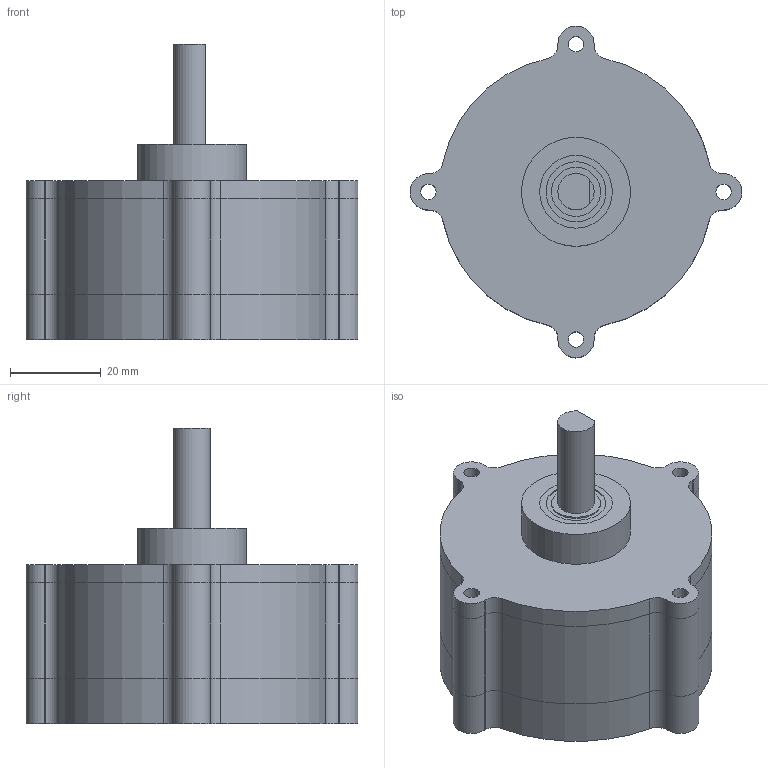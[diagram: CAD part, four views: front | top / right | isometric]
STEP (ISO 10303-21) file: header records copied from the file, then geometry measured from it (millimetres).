
FILE_DESCRIPTION(('FreeCAD Model'),'2;1');
FILE_NAME('Open CASCADE Shape Model','2026-10-17T14:03:41',('Author'),( ''),'Open CASCADE STEP processor 7.8','FreeCAD','Unknown');
FILE_SCHEMA(('AUTOMOTIVE_DESIGN { 1 0 10303 214 1 1 1 1 }'));
Length unit declared in the file: millimetre
Products named in the file (25): PlanetaryGearbox; motor_plate; sun_gear; ring_housing; carrier; output_cover; planet_gear_1; planet_gear_2; planet_gear_3; OutputShaft_D8; Bearing_688ZZ_1; Bearing_688ZZ_2; Spacer_688; Pin_D4x18_1; Bearing_684ZZ_1a; Bearing_684ZZ_1b; Washer_M4_1; Pin_D4x18_2; Bearing_684ZZ_2a; Bearing_684ZZ_2b; Washer_M4_2; Pin_D4x18_3; Bearing_684ZZ_3a; Bearing_684ZZ_3b; Washer_M4_3
Assembly tree (24 placements, depth 2):
  PlanetaryGearbox
    motor_plate
    sun_gear
    ring_housing
    carrier
    output_cover
    planet_gear_1
    planet_gear_2
    planet_gear_3
    OutputShaft_D8
    Bearing_688ZZ_1
    Bearing_688ZZ_2
    Spacer_688
    Pin_D4x18_1
    Bearing_684ZZ_1a
    Bearing_684ZZ_1b
    Washer_M4_1
    Pin_D4x18_2
    Bearing_684ZZ_2a
    Bearing_684ZZ_2b
    Washer_M4_2
    Pin_D4x18_3
    Bearing_684ZZ_3a
    Bearing_684ZZ_3b
    Washer_M4_3
Bounding box: 73 x 73 x 65 mm (x, y, z)
Volume: 82115.5 mm3; surface area: 49060.4 mm2
Topology: 24 solids, 24 shells, 915 faces, 2424 edges, 1617 vertices
Faces by surface type: cylinder 391, plane 296, extrusion 228
Full cylindrical faces by diameter (mm): 2.9 x2, 3.4 x16, 4 x12, 4.3 x3, 5 x1, 5.75 x12, 6 x8, 7.25 x12, 8 x5, 8.2 x1, 9 x12, 10 x2, 10.8 x4, 12.5 x1, 13.2 x4, 16 x5, 18 x1, 22.2 x1, 24 x1, 40 x1, 50.9 x1, 51.3 x1, 51.5 x2, 54 x1, 54.2 x1, 54.5 x1, 54.7 x1
Entity records: 39289 total; most frequent: CARTESIAN_POINT 16096, ORIENTED_EDGE 4848, DIRECTION 4401, EDGE_CURVE 2424, VERTEX_POINT 1617, AXIS2_PLACEMENT_3D 1496, VECTOR 1409, LINE 1181
